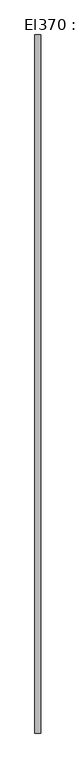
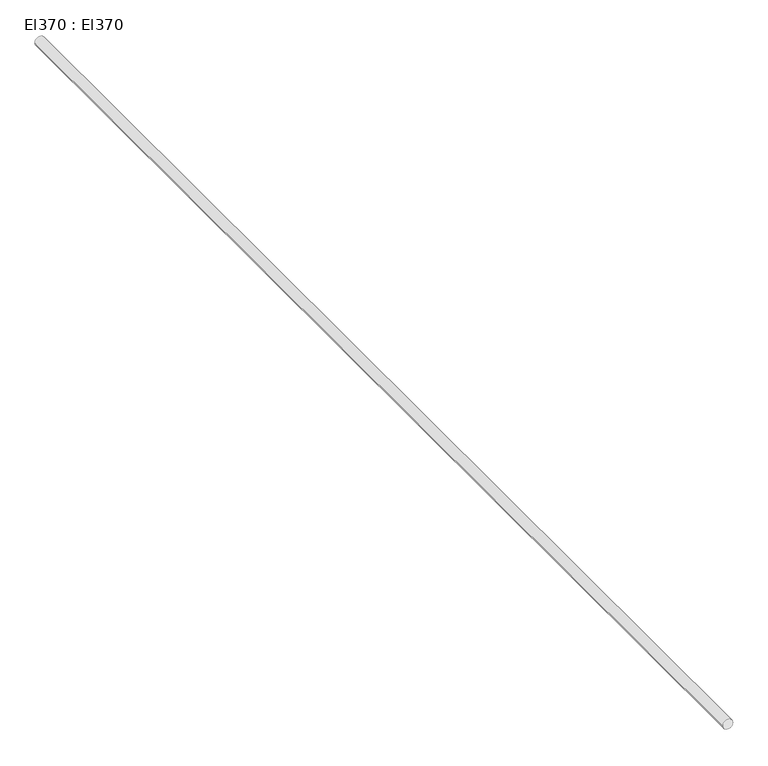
"""IFC4 building model written with IfcOpenShell, lengths in millimetres: cable carrier segment geometry, El370 : El370."""

from ifc_helpers import new_model, si_unit, point, frame, frame_2d, origin, place, context, project, spatial, circle_curve, trimmed, segment, composite_curve, outline, extrude, source, transform, mapped, element, save


def el370_el370_88438e2a(model_context):
    return source(origin(), model_context, "Body", "SweptSolid", [
        extrude(outline(composite_curve([segment(trimmed(circle_curve(frame_2d((2950.0, 8150.0)), 9.5), [point((2950.0, 8140.5))], [point((2950.0, 8159.5))], False, "CARTESIAN"), True, "CONTINUOUS"), segment(trimmed(circle_curve(frame_2d((2950.0, 8150.0)), 9.5), [point((2950.0, 8159.5))], [point((2950.0, 8140.5))], False, "CARTESIAN"), True, "CONTINUOUS")], self_intersect=False)), frame((0.0, 16436.3, 0.0), z_axis=(0.0, 1.0, 0.0), x_axis=(0.0, 0.0, 1.0)), (0.0, 0.0, 1.0), 2230.0),
    ])


if __name__ == "__main__":
    model = new_model("IFC4")
    model_context = context("Model", 3, world=origin())
    ifc_project = project(units=[si_unit("LENGTHUNIT", "METRE", prefix="MILLI")], contexts=[model_context])
    site = spatial("IfcSite", under=ifc_project)
    building = spatial("IfcBuilding", under=site)
    placement = place(None, origin())
    el370_el370_shape = el370_el370_88438e2a(model_context)
    element("IfcCableCarrierSegment", 1, ObjectType="El370 : El370", at=placement, inside=building, context=model_context, shape_type="MappedRepresentation", body=[
        mapped(el370_el370_shape, transform((0.0, 0.0, 0.0), x_axis=(1.0, 0.0, 0.0), y_axis=(0.0, 1.0, 0.0), z_axis=(0.0, 0.0, 1.0))),
    ])
    save(model, "model.ifc")
